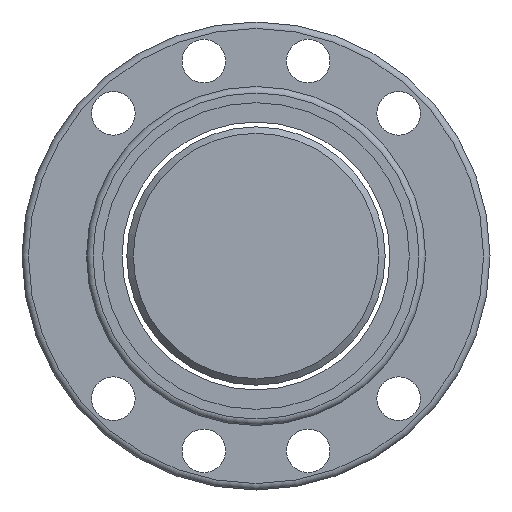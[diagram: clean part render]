
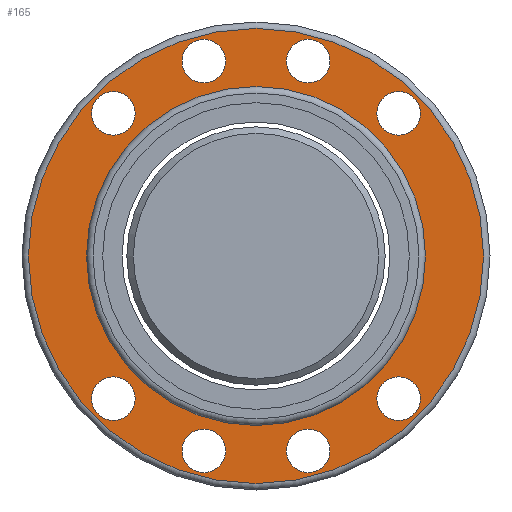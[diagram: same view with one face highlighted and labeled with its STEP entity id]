
A CAD part, left-side view. The second image highlights one B-rep face of the part: STEP entity #165.
In plain terms, the highlighted planar face has unit normal (-1, 0, 0).
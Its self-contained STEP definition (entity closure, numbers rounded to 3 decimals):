
#123=PLANE('',#720);
#140=FACE_OUTER_BOUND('',#345,.T.);
#165=ADVANCED_FACE('',(#239,#240,#241,#242,#243,#244,#245,#246,#140,#247),
#123,.F.);
#239=FACE_BOUND('',#337,.T.);
#240=FACE_BOUND('',#338,.T.);
#241=FACE_BOUND('',#339,.T.);
#242=FACE_BOUND('',#340,.T.);
#243=FACE_BOUND('',#341,.T.);
#244=FACE_BOUND('',#342,.T.);
#245=FACE_BOUND('',#343,.T.);
#246=FACE_BOUND('',#344,.T.);
#247=FACE_BOUND('',#346,.T.);
#337=EDGE_LOOP('',(#443));
#338=EDGE_LOOP('',(#444));
#339=EDGE_LOOP('',(#445));
#340=EDGE_LOOP('',(#446));
#341=EDGE_LOOP('',(#447));
#342=EDGE_LOOP('',(#448));
#343=EDGE_LOOP('',(#449));
#344=EDGE_LOOP('',(#450));
#345=EDGE_LOOP('',(#451));
#346=EDGE_LOOP('',(#452));
#443=ORIENTED_EDGE('',*,*,#586,.T.);
#444=ORIENTED_EDGE('',*,*,#587,.T.);
#445=ORIENTED_EDGE('',*,*,#588,.T.);
#446=ORIENTED_EDGE('',*,*,#589,.T.);
#447=ORIENTED_EDGE('',*,*,#590,.T.);
#448=ORIENTED_EDGE('',*,*,#591,.T.);
#449=ORIENTED_EDGE('',*,*,#592,.T.);
#450=ORIENTED_EDGE('',*,*,#593,.T.);
#451=ORIENTED_EDGE('',*,*,#594,.F.);
#452=ORIENTED_EDGE('',*,*,#595,.T.);
#533=VERTEX_POINT('',#1027);
#534=VERTEX_POINT('',#1029);
#535=VERTEX_POINT('',#1031);
#536=VERTEX_POINT('',#1033);
#537=VERTEX_POINT('',#1035);
#538=VERTEX_POINT('',#1037);
#539=VERTEX_POINT('',#1039);
#540=VERTEX_POINT('',#1041);
#541=VERTEX_POINT('',#1043);
#542=VERTEX_POINT('',#1045);
#586=EDGE_CURVE('',#533,#533,#639,.T.);
#587=EDGE_CURVE('',#534,#534,#640,.T.);
#588=EDGE_CURVE('',#535,#535,#641,.T.);
#589=EDGE_CURVE('',#536,#536,#642,.T.);
#590=EDGE_CURVE('',#537,#537,#643,.T.);
#591=EDGE_CURVE('',#538,#538,#644,.T.);
#592=EDGE_CURVE('',#539,#539,#645,.T.);
#593=EDGE_CURVE('',#540,#540,#646,.T.);
#594=EDGE_CURVE('',#541,#541,#647,.T.);
#595=EDGE_CURVE('',#542,#542,#648,.T.);
#639=CIRCLE('',#710,6.75);
#640=CIRCLE('',#711,6.75);
#641=CIRCLE('',#712,6.75);
#642=CIRCLE('',#713,6.75);
#643=CIRCLE('',#714,6.75);
#644=CIRCLE('',#715,6.75);
#645=CIRCLE('',#716,6.75);
#646=CIRCLE('',#717,6.75);
#647=CIRCLE('',#718,70.5);
#648=CIRCLE('',#719,52.5);
#710=AXIS2_PLACEMENT_3D('',#1026,#844,#845);
#711=AXIS2_PLACEMENT_3D('',#1028,#846,#847);
#712=AXIS2_PLACEMENT_3D('',#1030,#848,#849);
#713=AXIS2_PLACEMENT_3D('',#1032,#850,#851);
#714=AXIS2_PLACEMENT_3D('',#1034,#852,#853);
#715=AXIS2_PLACEMENT_3D('',#1036,#854,#855);
#716=AXIS2_PLACEMENT_3D('',#1038,#856,#857);
#717=AXIS2_PLACEMENT_3D('',#1040,#858,#859);
#718=AXIS2_PLACEMENT_3D('',#1042,#860,#861);
#719=AXIS2_PLACEMENT_3D('',#1044,#862,#863);
#720=AXIS2_PLACEMENT_3D('',#1046,#864,#865);
#844=DIRECTION('',(1.,0.,0.));
#845=DIRECTION('',(0.,0.,-1.));
#846=DIRECTION('',(1.,0.,0.));
#847=DIRECTION('',(0.,0.,-1.));
#848=DIRECTION('',(1.,0.,0.));
#849=DIRECTION('',(0.,0.,-1.));
#850=DIRECTION('',(1.,0.,0.));
#851=DIRECTION('',(0.,0.,-1.));
#852=DIRECTION('',(1.,0.,0.));
#853=DIRECTION('',(0.,0.,-1.));
#854=DIRECTION('',(1.,0.,0.));
#855=DIRECTION('',(0.,0.,-1.));
#856=DIRECTION('',(1.,0.,0.));
#857=DIRECTION('',(0.,0.,-1.));
#858=DIRECTION('',(1.,0.,0.));
#859=DIRECTION('',(0.,0.,-1.));
#860=DIRECTION('',(1.,0.,0.));
#861=DIRECTION('',(0.,0.,-1.));
#862=DIRECTION('',(1.,0.,0.));
#863=DIRECTION('',(0.,0.,-1.));
#864=DIRECTION('',(1.,0.,0.));
#865=DIRECTION('',(0.,0.,-1.));
#1026=CARTESIAN_POINT('',(-40.,44.19,-44.19));
#1027=CARTESIAN_POINT('',(-40.,44.19,-50.94));
#1028=CARTESIAN_POINT('',(-40.,16.175,-60.365));
#1029=CARTESIAN_POINT('',(-40.,16.175,-67.115));
#1030=CARTESIAN_POINT('',(-40.,-16.175,-60.365));
#1031=CARTESIAN_POINT('',(-40.,-16.175,-67.115));
#1032=CARTESIAN_POINT('',(-40.,-44.19,-44.19));
#1033=CARTESIAN_POINT('',(-40.,-44.19,-50.94));
#1034=CARTESIAN_POINT('',(-40.,-44.19,44.19));
#1035=CARTESIAN_POINT('',(-40.,-44.19,37.44));
#1036=CARTESIAN_POINT('',(-40.,-16.175,60.365));
#1037=CARTESIAN_POINT('',(-40.,-16.175,53.615));
#1038=CARTESIAN_POINT('',(-40.,16.175,60.365));
#1039=CARTESIAN_POINT('',(-40.,16.175,53.615));
#1040=CARTESIAN_POINT('',(-40.,44.19,44.19));
#1041=CARTESIAN_POINT('',(-40.,44.19,37.44));
#1042=CARTESIAN_POINT('',(-40.,0.,0.));
#1043=CARTESIAN_POINT('',(-40.,0.,-70.5));
#1044=CARTESIAN_POINT('',(-40.,0.,0.));
#1045=CARTESIAN_POINT('',(-40.,0.,-52.5));
#1046=CARTESIAN_POINT('',(-40.,61.5,0.));
